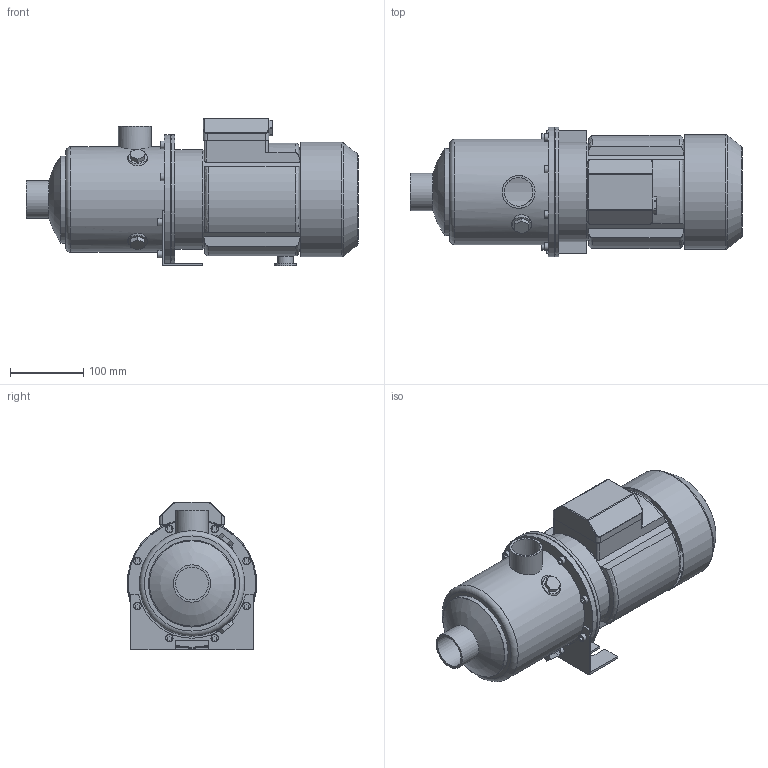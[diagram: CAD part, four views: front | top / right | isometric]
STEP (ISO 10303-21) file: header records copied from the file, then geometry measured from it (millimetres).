
FILE_DESCRIPTION(/* description */ ('Unknown'),/* implementation_level */ '2;1');
FILE_NAME(/* name */ 'MH 9 [4] T',/* time_stamp */ '2026-07-10T15:03:53+02:00',/* author */ ('Unknown'),/* organization */ ('Unknown'),/* preprocessor_version */ 'ST-DEVELOPER v20',/* originating_system */ 'Solid Edge',/* authorisation */ 'Unknown');
FILE_SCHEMA (('AUTOMOTIVE_DESIGN {1 0 10303 214 3 1 1}'));
Length unit declared in the file: millimetre
Products named in the file (10): MH 9 [4] T; Flangia motore Tonda M80; Corpo MH 9 [4]; Mot_Wendy_MEC80_11-15_T; carcassa MEC 80-Wendy; Copriventola MEC 80-Wendy; Basetta MEC 80 T-Wendy_new; Piedino MEC 80 int.90; Staffa 3-5-9 int.90
Assembly tree (8 placements, depth 3):
  MH 9 [4] T
    Flangia motore Tonda M80
    Corpo MH 9 [4]
    Mot_Wendy_MEC80_11-15_T
      carcassa MEC 80-Wendy
      Copriventola MEC 80-Wendy
      Basetta MEC 80 T-Wendy_new
    Piedino MEC 80 int.90
    Staffa 3-5-9 int.90
  (unnamed)
Bounding box: 452.1 x 176.5 x 200.5 mm (x, y, z)
Volume: 2060306.1 mm3; surface area: 568963.5 mm2
Topology: 8 solids, 8 shells, 276 faces, 647 edges, 429 vertices
Faces by surface type: plane 163, cylinder 74, torus 19, cone 14, bspline 4, sphere 2
Full cylindrical faces by diameter (mm): 7 x4, 10 x9, 13.5 x1, 17.5 x1, 21 x1, 30 x1, 38.952 x1, 44.5 x1, 44.845 x1, 50.8 x1, 116.1 x1, 118.5 x1, 125 x1, 130 x3, 134 x1, 136 x1, 141.1 x1, 143.5 x1, 153.5 x1, 155.5 x1, 173.5 x1, 174.1 x1, 176.5 x2
Entity records: 8882 total; most frequent: CARTESIAN_POINT 1617, DIRECTION 1262, ORIENTED_EDGE 1118, EDGE_CURVE 559, AXIS2_PLACEMENT_3D 461, VERTEX_POINT 398, EDGE_LOOP 385, FACE_BOUND 385
